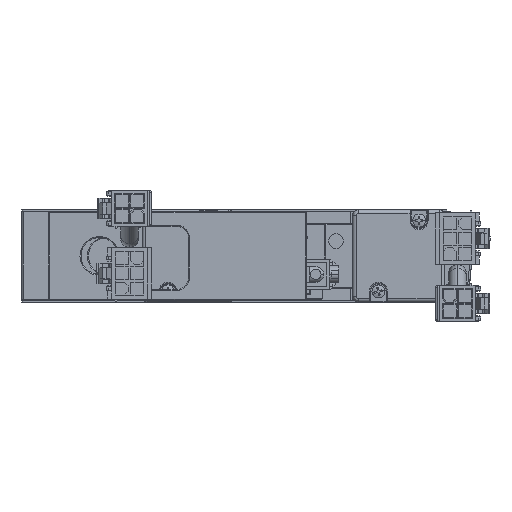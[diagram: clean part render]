
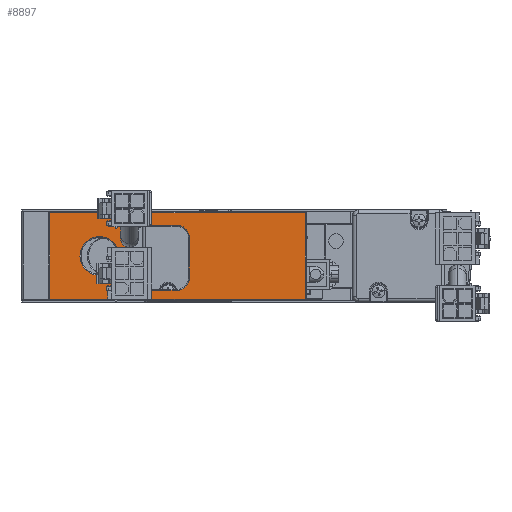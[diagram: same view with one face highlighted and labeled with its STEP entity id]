
A CAD part, left-side view. The second image highlights one B-rep face of the part: STEP entity #8897.
In plain terms, the highlighted planar face has unit normal (-1, 0, 0).
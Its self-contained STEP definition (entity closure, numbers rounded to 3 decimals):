
#4652=CARTESIAN_POINT('',(-105.5,-2.,6.5));
#4653=DIRECTION('',(-1.,0.,0.));
#4654=DIRECTION('',(0.,0.,-1.));
#4655=AXIS2_PLACEMENT_3D('',#4652,#4653,#4654);
#4657=CARTESIAN_POINT('',(-105.5,-2.,17.5));
#4658=DIRECTION('',(-1.,0.,0.));
#4659=DIRECTION('',(0.,-1.,0.));
#4660=AXIS2_PLACEMENT_3D('',#4657,#4658,#4659);
#4662=CARTESIAN_POINT('',(-105.5,8.,17.5));
#4663=DIRECTION('',(-1.,0.,0.));
#4664=DIRECTION('',(0.,0.,1.));
#4665=AXIS2_PLACEMENT_3D('',#4662,#4663,#4664);
#4667=CARTESIAN_POINT('',(-105.5,8.,6.5));
#4668=DIRECTION('',(-1.,0.,0.));
#4669=DIRECTION('',(0.,1.,0.));
#4670=AXIS2_PLACEMENT_3D('',#4667,#4668,#4669);
#4672=CARTESIAN_POINT('',(-105.5,19.,12.5));
#4673=DIRECTION('',(-1.,0.,0.));
#4674=DIRECTION('',(0.,0.,1.));
#4675=AXIS2_PLACEMENT_3D('',#4672,#4673,#4674);
#4677=CARTESIAN_POINT('',(-105.5,19.,12.5));
#4678=DIRECTION('',(-1.,0.,0.));
#4679=DIRECTION('',(0.,0.,-1.));
#4680=AXIS2_PLACEMENT_3D('',#4677,#4678,#4679);
#4682=DIRECTION('',(0.,1.,0.));
#4683=VECTOR('',#4682,69.2);
#4684=CARTESIAN_POINT('',(-105.5,-36.7,24.2));
#4685=LINE('',#4684,#4683);
#5751=DIRECTION('',(0.,-1.,0.));
#5752=VECTOR('',#5751,69.2);
#5753=CARTESIAN_POINT('',(-105.5,32.5,0.8));
#5754=LINE('',#5753,#5752);
#5763=DIRECTION('',(0.,0.,1.));
#5764=VECTOR('',#5763,23.4);
#5765=CARTESIAN_POINT('',(-105.5,-36.7,0.8));
#5766=LINE('',#5765,#5764);
#5894=DIRECTION('',(0.,0.,-1.));
#5895=VECTOR('',#5894,23.4);
#5896=CARTESIAN_POINT('',(-105.5,32.5,24.2));
#5897=LINE('',#5896,#5895);
#6500=DIRECTION('',(0.,0.,-1.));
#6501=VECTOR('',#6500,11.);
#6502=CARTESIAN_POINT('',(-105.5,-5.3,17.5));
#6503=LINE('',#6502,#6501);
#6521=DIRECTION('',(0.,1.,0.));
#6522=VECTOR('',#6521,10.);
#6523=CARTESIAN_POINT('',(-105.5,-2.,3.2));
#6524=LINE('',#6523,#6522);
#6538=DIRECTION('',(0.,0.,1.));
#6539=VECTOR('',#6538,11.);
#6540=CARTESIAN_POINT('',(-105.5,11.3,6.5));
#6541=LINE('',#6540,#6539);
#6555=DIRECTION('',(0.,-1.,0.));
#6556=VECTOR('',#6555,10.);
#6557=CARTESIAN_POINT('',(-105.5,8.,20.8));
#6558=LINE('',#6557,#6556);
#7913=CARTESIAN_POINT('',(-105.5,-36.7,24.2));
#7914=CARTESIAN_POINT('',(-105.5,32.5,24.2));
#7915=VERTEX_POINT('',#7913);
#7916=VERTEX_POINT('',#7914);
#7917=CARTESIAN_POINT('',(-105.5,-36.7,0.8));
#7918=VERTEX_POINT('',#7917);
#7919=CARTESIAN_POINT('',(-105.5,32.5,0.8));
#7920=VERTEX_POINT('',#7919);
#7921=CARTESIAN_POINT('',(-105.5,-2.,3.2));
#7922=CARTESIAN_POINT('',(-105.5,-5.3,6.5));
#7923=VERTEX_POINT('',#7921);
#7924=VERTEX_POINT('',#7922);
#7925=CARTESIAN_POINT('',(-105.5,-5.3,17.5));
#7926=VERTEX_POINT('',#7925);
#7927=CARTESIAN_POINT('',(-105.5,-2.,20.8));
#7928=VERTEX_POINT('',#7927);
#7929=CARTESIAN_POINT('',(-105.5,8.,20.8));
#7930=VERTEX_POINT('',#7929);
#7931=CARTESIAN_POINT('',(-105.5,11.3,17.5));
#7932=VERTEX_POINT('',#7931);
#7933=CARTESIAN_POINT('',(-105.5,11.3,6.5));
#7934=VERTEX_POINT('',#7933);
#7935=CARTESIAN_POINT('',(-105.5,8.,3.2));
#7936=VERTEX_POINT('',#7935);
#7937=CARTESIAN_POINT('',(-105.5,19.,17.8));
#7938=CARTESIAN_POINT('',(-105.5,19.,7.2));
#7939=VERTEX_POINT('',#7937);
#7940=VERTEX_POINT('',#7938);
#8858=CARTESIAN_POINT('',(-105.5,-2.1,12.5));
#8859=DIRECTION('',(1.,0.,0.));
#8860=DIRECTION('',(0.,-1.,0.));
#8861=AXIS2_PLACEMENT_3D('',#8858,#8859,#8860);
#8862=PLANE('',#8861);
#8864=ORIENTED_EDGE('',*,*,#8863,.F.);
#8866=ORIENTED_EDGE('',*,*,#8865,.F.);
#8868=ORIENTED_EDGE('',*,*,#8867,.F.);
#8870=ORIENTED_EDGE('',*,*,#8869,.F.);
#8871=EDGE_LOOP('',(#8864,#8866,#8868,#8870));
#8872=FACE_OUTER_BOUND('',#8871,.F.);
#8874=ORIENTED_EDGE('',*,*,#8873,.T.);
#8876=ORIENTED_EDGE('',*,*,#8875,.F.);
#8878=ORIENTED_EDGE('',*,*,#8877,.T.);
#8880=ORIENTED_EDGE('',*,*,#8879,.F.);
#8882=ORIENTED_EDGE('',*,*,#8881,.T.);
#8884=ORIENTED_EDGE('',*,*,#8883,.F.);
#8886=ORIENTED_EDGE('',*,*,#8885,.T.);
#8888=ORIENTED_EDGE('',*,*,#8887,.F.);
#8889=EDGE_LOOP('',(#8874,#8876,#8878,#8880,#8882,#8884,#8886,#8888));
#8890=FACE_BOUND('',#8889,.F.);
#8892=ORIENTED_EDGE('',*,*,#8891,.T.);
#8894=ORIENTED_EDGE('',*,*,#8893,.T.);
#8895=EDGE_LOOP('',(#8892,#8894));
#8896=FACE_BOUND('',#8895,.F.);
#4656=CIRCLE('',#4655,3.3);
#4661=CIRCLE('',#4660,3.3);
#4666=CIRCLE('',#4665,3.3);
#4671=CIRCLE('',#4670,3.3);
#4676=CIRCLE('',#4675,5.3);
#4681=CIRCLE('',#4680,5.3);
#8863=EDGE_CURVE('',#7915,#7916,#4685,.T.);
#8865=EDGE_CURVE('',#7918,#7915,#5766,.T.);
#8867=EDGE_CURVE('',#7920,#7918,#5754,.T.);
#8869=EDGE_CURVE('',#7916,#7920,#5897,.T.);
#8873=EDGE_CURVE('',#7923,#7924,#4656,.T.);
#8875=EDGE_CURVE('',#7926,#7924,#6503,.T.);
#8877=EDGE_CURVE('',#7926,#7928,#4661,.T.);
#8879=EDGE_CURVE('',#7930,#7928,#6558,.T.);
#8881=EDGE_CURVE('',#7930,#7932,#4666,.T.);
#8883=EDGE_CURVE('',#7934,#7932,#6541,.T.);
#8885=EDGE_CURVE('',#7934,#7936,#4671,.T.);
#8887=EDGE_CURVE('',#7923,#7936,#6524,.T.);
#8891=EDGE_CURVE('',#7939,#7940,#4676,.T.);
#8893=EDGE_CURVE('',#7940,#7939,#4681,.T.);
#8897=ADVANCED_FACE('',(#8872,#8890,#8896),#8862,.F.);
